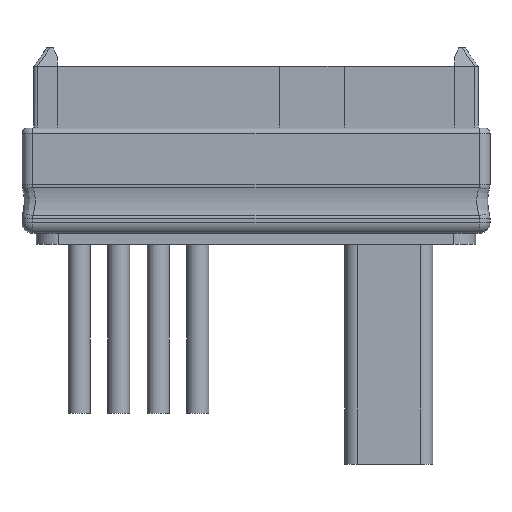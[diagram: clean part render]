
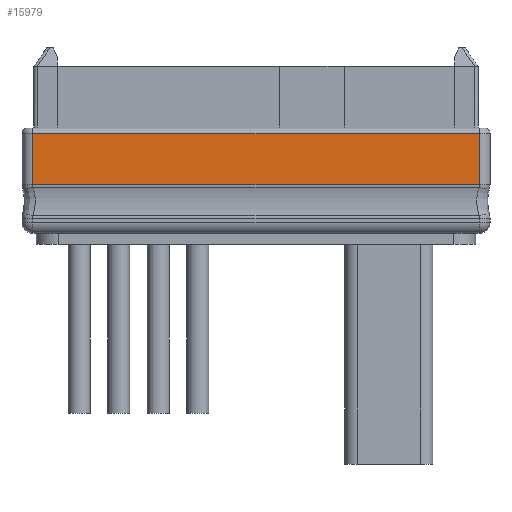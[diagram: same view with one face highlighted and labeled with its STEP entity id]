
A CAD part, front view. The second image highlights one B-rep face of the part: STEP entity #15979.
In plain terms, the highlighted planar face has unit normal (0, -1, 0).
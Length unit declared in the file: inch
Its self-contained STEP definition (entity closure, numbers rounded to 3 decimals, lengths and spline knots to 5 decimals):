
#4158=DIRECTION('',(1.,0.,0.));
#4159=VECTOR('',#4158,40.6);
#4160=CARTESIAN_POINT('',(-20.3,-3.2,-6.1));
#4161=LINE('',#4160,#4159);
#4162=DIRECTION('',(0.,0.,1.));
#4163=VECTOR('',#4162,4.66377);
#4164=CARTESIAN_POINT('',(20.3,-3.2,-10.76377));
#4165=LINE('',#4164,#4163);
#4166=DIRECTION('',(1.,0.,0.));
#4167=VECTOR('',#4166,40.6);
#4168=CARTESIAN_POINT('',(-20.3,-3.2,-10.76377));
#4169=LINE('',#4168,#4167);
#4170=DIRECTION('',(0.,0.,1.));
#4171=VECTOR('',#4170,4.66377);
#4172=CARTESIAN_POINT('',(-20.3,-3.2,-10.76377));
#4173=LINE('',#4172,#4171);
#9117=CARTESIAN_POINT('',(20.3,-3.2,-10.76377));
#9119=VERTEX_POINT('',#9117);
#9149=CARTESIAN_POINT('',(-20.3,-3.2,-10.76377));
#9151=VERTEX_POINT('',#9149);
#9162=CARTESIAN_POINT('',(20.3,-3.2,-6.1));
#9164=VERTEX_POINT('',#9162);
#9188=CARTESIAN_POINT('',(-20.3,-3.2,-6.1));
#9189=VERTEX_POINT('',#9188);
#15965=CARTESIAN_POINT('',(-21.3,-3.2,-5.6));
#15966=DIRECTION('',(0.,-1.,0.));
#15967=DIRECTION('',(1.,0.,0.));
#15968=AXIS2_PLACEMENT_3D('',#15965,#15966,#15967);
#15969=PLANE('',#15968);
#15970=ORIENTED_EDGE('',*,*,#15959,.T.);
#15972=ORIENTED_EDGE('',*,*,#15971,.F.);
#15974=ORIENTED_EDGE('',*,*,#15973,.F.);
#15976=ORIENTED_EDGE('',*,*,#15975,.T.);
#15977=EDGE_LOOP('',(#15970,#15972,#15974,#15976));
#15978=FACE_OUTER_BOUND('',#15977,.F.);
#15979=ADVANCED_FACE('',(#15978),#15969,.T.);
#15959=EDGE_CURVE('',#9189,#9164,#4161,.T.);
#15971=EDGE_CURVE('',#9119,#9164,#4165,.T.);
#15973=EDGE_CURVE('',#9151,#9119,#4169,.T.);
#15975=EDGE_CURVE('',#9151,#9189,#4173,.T.);
